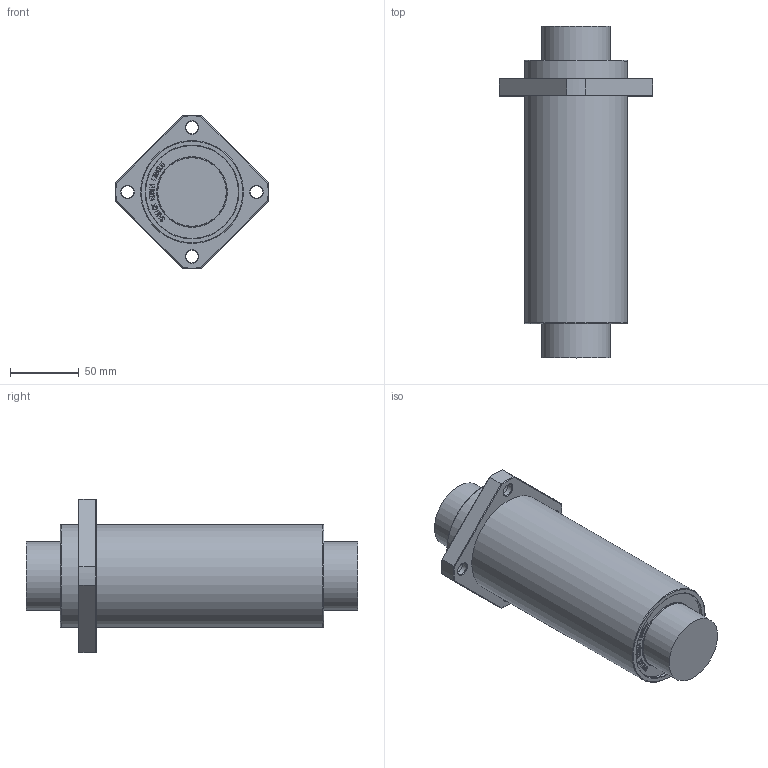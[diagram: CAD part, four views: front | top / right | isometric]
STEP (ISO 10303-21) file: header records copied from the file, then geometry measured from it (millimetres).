
FILE_DESCRIPTION(/* description */ (''),/* implementation_level */ '2;1');
FILE_NAME(/* name */ 'W:\(01) 2024년 홈페이지 CAD파일 최신화\LMEKP_L\IPT\LMEKP50LUU.stp',/* time_stamp */ '2025-01-25T13:03:55+09:00',/* author */ ('서우현'),/* organization */ (''),/* preprocessor_version */ 'ST-DEVELOPER v17.2',/* originating_system */ 'Autodesk Inventor 2019',/* authorisation */ '');
FILE_SCHEMA (('AUTOMOTIVE_DESIGN { 1 0 10303 214 3 1 1 }'));
Length unit declared in the file: millimetre
Products named in the file (1): LM5
Bounding box: 111.91 x 242 x 111.91 mm (x, y, z)
Volume: 973538.6 mm3; surface area: 72224.1 mm2
Topology: 1 solids, 1 shells, 880 faces, 2466 edges, 1644 vertices
Faces by surface type: bspline 600, plane 240, cone 20, cylinder 18, torus 2
Full cylindrical faces by diameter (mm): 9 x4, 14 x4, 50 x2, 67.7 x2, 75 x2
Entity records: 30188 total; most frequent: CARTESIAN_POINT 11159, ORIENTED_EDGE 4932, EDGE_CURVE 2466, DIRECTION 1902, VERTEX_POINT 1644, B_SPLINE_CURVE_WITH_KNOTS 1200, LINE 1160, VECTOR 1160
